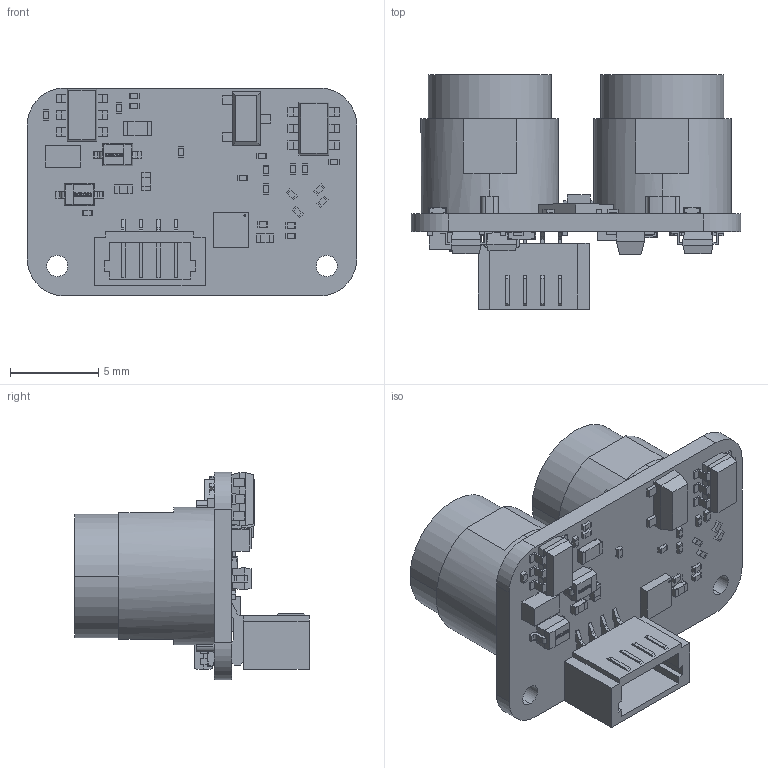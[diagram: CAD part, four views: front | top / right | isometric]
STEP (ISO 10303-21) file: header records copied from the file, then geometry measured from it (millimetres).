
FILE_DESCRIPTION (( 'STEP AP203' ), '1' );
FILE_NAME ('SP10BD发射接收模组开模.STEP', '2025-02-27T02:00:20', ( '' ), ( '' ), 'SwSTEP 2.0', 'SolidWorks 2020', '' );
FILE_SCHEMA (( 'CONFIG_CONTROL_DESIGN' ));
Length unit declared in the file: millimetre
Products named in the file (1): SP10BD发射接收模组开模
Bounding box: 18.7 x 13.3 x 11.8 mm (x, y, z)
Surface area: 1286.2 mm2 (no closed solid volume)
Topology: 0 solids, 65 shells, 699 faces, 2916 edges, 2248 vertices
Faces by surface type: plane 628, cylinder 55, torus 8, cone 4, sphere 4
Entity records: 29821 total; most frequent: CARTESIAN_POINT 6720, ORIENTED_EDGE 4417, DIRECTION 4233, EDGE_CURVE 2916, LINE 2439, VECTOR 2439, VERTEX_POINT 2248, AXIS2_PLACEMENT_3D 897
